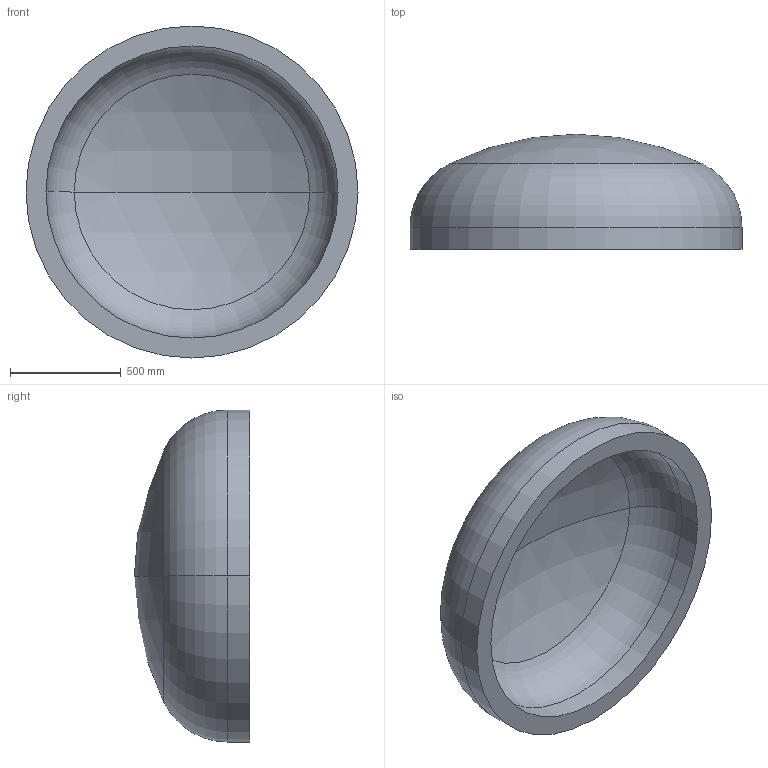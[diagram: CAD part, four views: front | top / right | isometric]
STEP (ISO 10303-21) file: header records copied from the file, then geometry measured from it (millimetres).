
FILE_DESCRIPTION (( 'STEP AP203' ), '1' );
FILE_NAME ('DIN 28013 Korbbogenform_-_Boden DIN 28013 - 1500 x 100 - I - s=90.step', '2016-07-01T10:56:17', ( '' ), ( '' ), 'SwSTEP 2.0', 'SolidWorks 2013', '' );
FILE_SCHEMA (( 'CONFIG_CONTROL_DESIGN' ));
Length unit declared in the file: millimetre
Products named in the file (1): DIN 28013 Korbbogenform_-_Boden DIN 28013 - 1500 x 100 - I - s=90
Bounding box: 1500 x 520.52 x 1500 mm (x, y, z)
Volume: 243738124.3 mm3; surface area: 5832034.2 mm2
Topology: 1 solids, 1 shells, 13 faces, 24 edges, 14 vertices
Faces by surface type: torus 4, cylinder 4, sphere 4, plane 1
Entity records: 407 total; most frequent: DIRECTION 72, CARTESIAN_POINT 52, ORIENTED_EDGE 48, AXIS2_PLACEMENT_3D 34, EDGE_CURVE 24, CIRCLE 20, EDGE_LOOP 14, VERTEX_POINT 14
